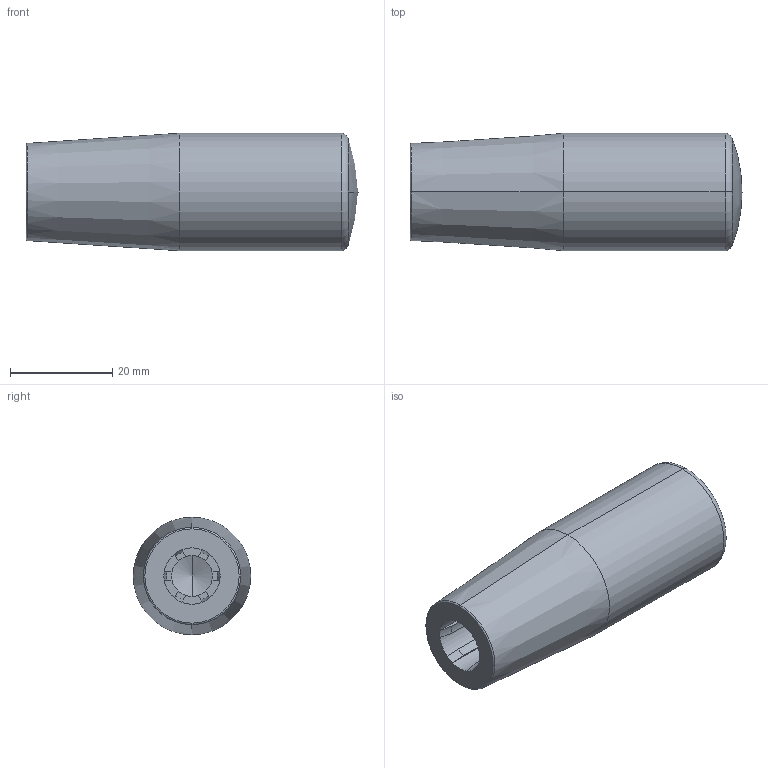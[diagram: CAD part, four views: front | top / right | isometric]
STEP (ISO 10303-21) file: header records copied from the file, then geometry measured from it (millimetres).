
FILE_DESCRIPTION (( 'STEP AP214' ), '1' );
FILE_NAME ('519.1-23-B10.step', '2019-05-07T12:15:57', ( 'user' ), ( '' ), 'SwSTEP 2.0', 'SolidWorks 2019', '' );
FILE_SCHEMA (( 'AUTOMOTIVE_DESIGN' ));
Length unit declared in the file: millimetre
Products named in the file (1): 519.1-23-B10
Bounding box: 65 x 23 x 23 mm (x, y, z)
Volume: 19127.7 mm3; surface area: 7702.6 mm2
Topology: 1 solids, 1 shells, 62 faces, 151 edges, 90 vertices
Faces by surface type: plane 25, cylinder 21, cone 10, torus 4, sphere 2
Entity records: 1867 total; most frequent: CARTESIAN_POINT 338, DIRECTION 333, ORIENTED_EDGE 298, EDGE_CURVE 149, AXIS2_PLACEMENT_3D 133, VERTEX_POINT 90, CIRCLE 70, LINE 67
